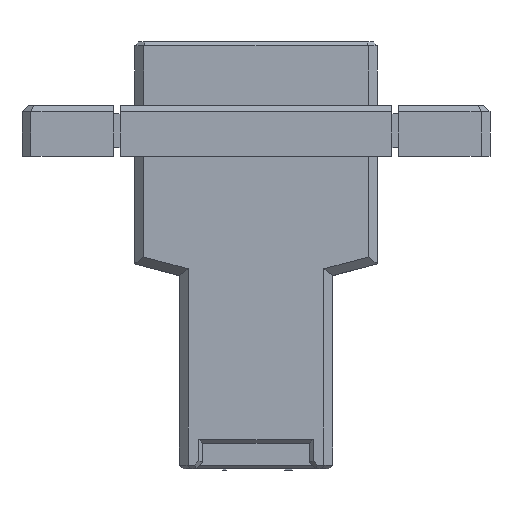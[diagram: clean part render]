
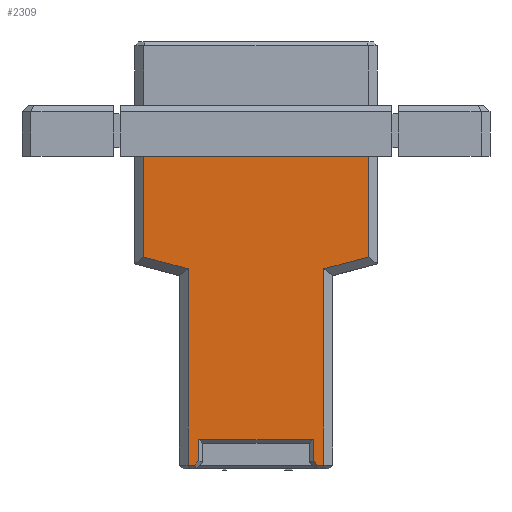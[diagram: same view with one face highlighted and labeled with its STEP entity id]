
A CAD part, front view. The second image highlights one B-rep face of the part: STEP entity #2309.
In plain terms, the highlighted planar face has unit normal (0, -1, 0).
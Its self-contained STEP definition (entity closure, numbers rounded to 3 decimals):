
#67 = VECTOR ( 'NONE', #3211, 1000. ) ;
#350 = CARTESIAN_POINT ( 'NONE',  ( -9.54, -4.675, -33.3 ) ) ;
#453 = ORIENTED_EDGE ( 'NONE', *, *, #4383, .T. ) ;
#527 = FACE_OUTER_BOUND ( 'NONE', #958, .T. ) ;
#691 = DIRECTION ( 'NONE',  ( 0.966, 0., -0.259 ) ) ;
#705 = VERTEX_POINT ( 'NONE', #10981 ) ;
#958 = EDGE_LOOP ( 'NONE', ( #11821, #11562, #1460, #2041, #3199, #453, #10931, #17458, #15851, #14960, #6213, #1190, #2573, #14196 ) ) ;
#1190 = ORIENTED_EDGE ( 'NONE', *, *, #6673, .T. ) ;
#1460 = ORIENTED_EDGE ( 'NONE', *, *, #10300, .T. ) ;
#1671 = LINE ( 'NONE', #350, #8666 ) ;
#1695 = LINE ( 'NONE', #7476, #67 ) ;
#2041 = ORIENTED_EDGE ( 'NONE', *, *, #6176, .T. ) ;
#2050 = CARTESIAN_POINT ( 'NONE',  ( -4.5, -4.675, -32.976 ) ) ;
#2309 = ADVANCED_FACE ( 'NONE', ( #527 ), #11705, .F. ) ;
#2430 = VECTOR ( 'NONE', #17126, 1000. ) ;
#2573 = ORIENTED_EDGE ( 'NONE', *, *, #10187, .T. ) ;
#2590 = EDGE_CURVE ( 'NONE', #18468, #16173, #11682, .T. ) ;
#2612 = VERTEX_POINT ( 'NONE', #4594 ) ;
#2618 = CARTESIAN_POINT ( 'NONE',  ( -5.34, -4.675, -17.863 ) ) ;
#2628 = CARTESIAN_POINT ( 'NONE',  ( -9.54, -4.675, -9. ) ) ;
#2867 = CARTESIAN_POINT ( 'NONE',  ( 5.34, -4.675, -18.4 ) ) ;
#3027 = DIRECTION ( 'NONE',  ( 0.707, 0., 0.707 ) ) ;
#3199 = ORIENTED_EDGE ( 'NONE', *, *, #2590, .T. ) ;
#3211 = DIRECTION ( 'NONE',  ( 0.707, 0., -0.707 ) ) ;
#3255 = EDGE_CURVE ( 'NONE', #9783, #16594, #1671, .T. ) ;
#3296 = VERTEX_POINT ( 'NONE', #9254 ) ;
#3533 = LINE ( 'NONE', #15081, #16059 ) ;
#3614 = DIRECTION ( 'NONE',  ( 0., 0., 1. ) ) ;
#3661 = CARTESIAN_POINT ( 'NONE',  ( -9.54, -4.675, -33.3 ) ) ;
#4383 = EDGE_CURVE ( 'NONE', #16173, #5559, #12076, .T. ) ;
#4402 = LINE ( 'NONE', #10179, #5392 ) ;
#4540 = CARTESIAN_POINT ( 'NONE',  ( 8.84, -4.675, -16.925 ) ) ;
#4594 = CARTESIAN_POINT ( 'NONE',  ( -8.84, -4.675, -16.925 ) ) ;
#4801 = DIRECTION ( 'NONE',  ( 1., 0., 0. ) ) ;
#4880 = EDGE_CURVE ( 'NONE', #2612, #7722, #3533, .T. ) ;
#5392 = VECTOR ( 'NONE', #10090, 1000. ) ;
#5559 = VERTEX_POINT ( 'NONE', #11026 ) ;
#6060 = LINE ( 'NONE', #13527, #10285 ) ;
#6176 = EDGE_CURVE ( 'NONE', #10075, #18468, #12414, .T. ) ;
#6213 = ORIENTED_EDGE ( 'NONE', *, *, #10209, .T. ) ;
#6403 = EDGE_CURVE ( 'NONE', #5559, #9783, #1695, .T. ) ;
#6673 = EDGE_CURVE ( 'NONE', #705, #14026, #16934, .T. ) ;
#7159 = LINE ( 'NONE', #10275, #13552 ) ;
#7428 = DIRECTION ( 'NONE',  ( 1., 0., 0. ) ) ;
#7476 = CARTESIAN_POINT ( 'NONE',  ( 4.912, -4.675, -33.388 ) ) ;
#7485 = VERTEX_POINT ( 'NONE', #4540 ) ;
#7544 = DIRECTION ( 'NONE',  ( 0., 0., 1. ) ) ;
#7579 = VECTOR ( 'NONE', #7428, 1000. ) ;
#7668 = CARTESIAN_POINT ( 'NONE',  ( -4.412, -4.675, -32.888 ) ) ;
#7722 = VERTEX_POINT ( 'NONE', #2618 ) ;
#8402 = VECTOR ( 'NONE', #17166, 1000. ) ;
#8666 = VECTOR ( 'NONE', #4801, 1000. ) ;
#8803 = AXIS2_PLACEMENT_3D ( 'NONE', #17484, #10291, #7544 ) ;
#8907 = CARTESIAN_POINT ( 'NONE',  ( 5.34, -4.675, -33.3 ) ) ;
#9254 = CARTESIAN_POINT ( 'NONE',  ( -4.824, -4.675, -33.3 ) ) ;
#9579 = EDGE_CURVE ( 'NONE', #16594, #18327, #12712, .T. ) ;
#9636 = VERTEX_POINT ( 'NONE', #16121 ) ;
#9783 = VERTEX_POINT ( 'NONE', #14172 ) ;
#10075 = VERTEX_POINT ( 'NONE', #2050 ) ;
#10090 = DIRECTION ( 'NONE',  ( 0., 0., 1. ) ) ;
#10179 = CARTESIAN_POINT ( 'NONE',  ( 8.84, -4.675, -18.4 ) ) ;
#10187 = EDGE_CURVE ( 'NONE', #14026, #2612, #7159, .T. ) ;
#10209 = EDGE_CURVE ( 'NONE', #7485, #705, #4402, .T. ) ;
#10275 = CARTESIAN_POINT ( 'NONE',  ( -8.84, -4.675, -18.4 ) ) ;
#10285 = VECTOR ( 'NONE', #11930, 1000. ) ;
#10291 = DIRECTION ( 'NONE',  ( 0., 1., 0. ) ) ;
#10300 = EDGE_CURVE ( 'NONE', #3296, #10075, #14664, .T. ) ;
#10844 = LINE ( 'NONE', #3661, #11158 ) ;
#10931 = ORIENTED_EDGE ( 'NONE', *, *, #6403, .T. ) ;
#10981 = CARTESIAN_POINT ( 'NONE',  ( 8.84, -4.675, -9. ) ) ;
#11026 = CARTESIAN_POINT ( 'NONE',  ( 4.5, -4.675, -32.976 ) ) ;
#11158 = VECTOR ( 'NONE', #14930, 1000. ) ;
#11562 = ORIENTED_EDGE ( 'NONE', *, *, #11781, .T. ) ;
#11682 = LINE ( 'NONE', #11966, #7579 ) ;
#11705 = PLANE ( 'NONE',  #8803 ) ;
#11781 = EDGE_CURVE ( 'NONE', #9636, #3296, #10844, .T. ) ;
#11821 = ORIENTED_EDGE ( 'NONE', *, *, #12796, .T. ) ;
#11899 = CARTESIAN_POINT ( 'NONE',  ( 4.5, -4.675, -18.4 ) ) ;
#11930 = DIRECTION ( 'NONE',  ( 0., 0., -1. ) ) ;
#11966 = CARTESIAN_POINT ( 'NONE',  ( -9.54, -4.675, -31.3 ) ) ;
#12076 = LINE ( 'NONE', #11899, #15444 ) ;
#12414 = LINE ( 'NONE', #17915, #17603 ) ;
#12490 = LINE ( 'NONE', #14000, #2430 ) ;
#12534 = CARTESIAN_POINT ( 'NONE',  ( -4.5, -4.675, -31.3 ) ) ;
#12712 = LINE ( 'NONE', #2867, #8402 ) ;
#12796 = EDGE_CURVE ( 'NONE', #7722, #9636, #6060, .T. ) ;
#13377 = VECTOR ( 'NONE', #15514, 1000. ) ;
#13527 = CARTESIAN_POINT ( 'NONE',  ( -5.34, -4.675, -18.4 ) ) ;
#13552 = VECTOR ( 'NONE', #16052, 1000. ) ;
#14000 = CARTESIAN_POINT ( 'NONE',  ( -8.678, -4.675, -21.619 ) ) ;
#14026 = VERTEX_POINT ( 'NONE', #16494 ) ;
#14172 = CARTESIAN_POINT ( 'NONE',  ( 4.824, -4.675, -33.3 ) ) ;
#14196 = ORIENTED_EDGE ( 'NONE', *, *, #4880, .T. ) ;
#14438 = CARTESIAN_POINT ( 'NONE',  ( 5.34, -4.675, -17.863 ) ) ;
#14664 = LINE ( 'NONE', #7668, #16587 ) ;
#14930 = DIRECTION ( 'NONE',  ( 1., 0., 0. ) ) ;
#14960 = ORIENTED_EDGE ( 'NONE', *, *, #16868, .T. ) ;
#15081 = CARTESIAN_POINT ( 'NONE',  ( -9.124, -4.675, -16.849 ) ) ;
#15444 = VECTOR ( 'NONE', #15968, 1000. ) ;
#15514 = DIRECTION ( 'NONE',  ( -1., 0., 0. ) ) ;
#15851 = ORIENTED_EDGE ( 'NONE', *, *, #9579, .T. ) ;
#15968 = DIRECTION ( 'NONE',  ( 0., 0., -1. ) ) ;
#16052 = DIRECTION ( 'NONE',  ( 0., 0., -1. ) ) ;
#16059 = VECTOR ( 'NONE', #691, 1000. ) ;
#16121 = CARTESIAN_POINT ( 'NONE',  ( -5.34, -4.675, -33.3 ) ) ;
#16173 = VERTEX_POINT ( 'NONE', #18489 ) ;
#16494 = CARTESIAN_POINT ( 'NONE',  ( -8.84, -4.675, -9. ) ) ;
#16587 = VECTOR ( 'NONE', #3027, 1000. ) ;
#16594 = VERTEX_POINT ( 'NONE', #8907 ) ;
#16868 = EDGE_CURVE ( 'NONE', #18327, #7485, #12490, .T. ) ;
#16934 = LINE ( 'NONE', #2628, #13377 ) ;
#17126 = DIRECTION ( 'NONE',  ( 0.966, 0., 0.259 ) ) ;
#17166 = DIRECTION ( 'NONE',  ( 0., 0., 1. ) ) ;
#17458 = ORIENTED_EDGE ( 'NONE', *, *, #3255, .T. ) ;
#17484 = CARTESIAN_POINT ( 'NONE',  ( -9.54, -4.675, -18.4 ) ) ;
#17603 = VECTOR ( 'NONE', #3614, 1000. ) ;
#17915 = CARTESIAN_POINT ( 'NONE',  ( -4.5, -4.675, -18.4 ) ) ;
#18327 = VERTEX_POINT ( 'NONE', #14438 ) ;
#18468 = VERTEX_POINT ( 'NONE', #12534 ) ;
#18489 = CARTESIAN_POINT ( 'NONE',  ( 4.5, -4.675, -31.3 ) ) ;
